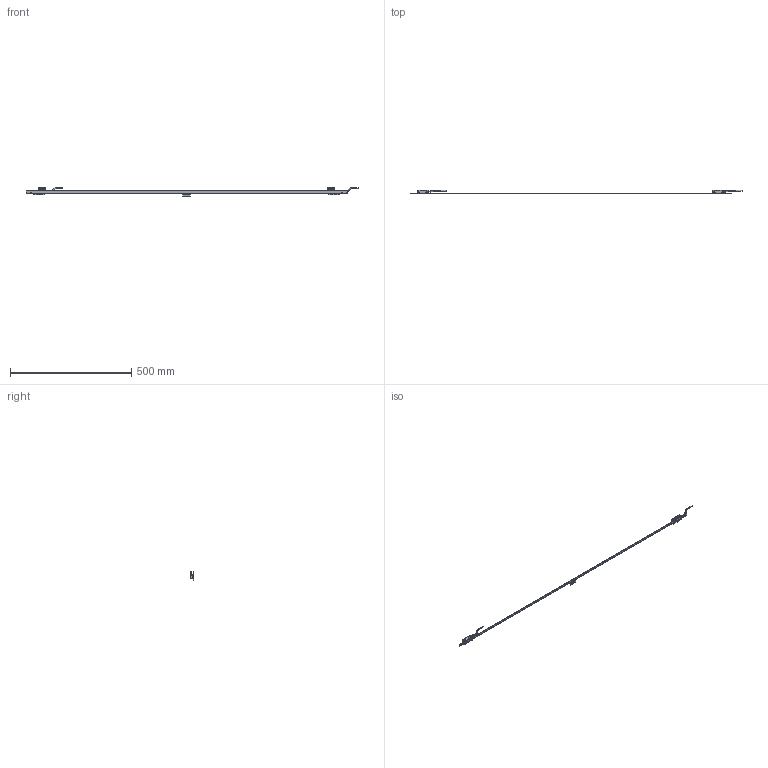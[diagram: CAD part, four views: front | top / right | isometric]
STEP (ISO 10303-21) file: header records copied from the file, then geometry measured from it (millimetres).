
FILE_DESCRIPTION(('Creo Elements/Direct Modeling STEP Export'),'2;1');
FILE_NAME('ITA-1220.stp','2025-01-22T11:41:46',(''),(''),'Creo Elements/Direct Modeling STEP processor for AP214 (Solid Model)','Creo Elements/Direct Modeling 20.4A 18-Oct-2021 (C) Parametric Technology GmbH','');
FILE_SCHEMA(('AUTOMOTIVE_DESIGN { 1 0 10303 214 1 1 1 1 }'));
Length unit declared in the file: millimetre
Products named in the file (9): END_TAPE_2; READING_HEAD_1; TAPE_1220; READING_HEAD_2; MAGNET_L1; MAGNET_L2; MAGNET_I0; END_TAPE_1; ITA_1220
Assembly tree (8 placements, depth 2):
  ITA_1220
    END_TAPE_1
    MAGNET_I0
    MAGNET_L2
    MAGNET_L1
    READING_HEAD_2
    TAPE_1220
    READING_HEAD_1
    END_TAPE_2
Bounding box: 1371.13 x 15.04 x 34.82 mm (x, y, z)
Volume: 31121.8 mm3; surface area: 40089.8 mm2
Topology: 8 solids, 8 shells, 1250 faces, 3413 edges, 2210 vertices
Faces by surface type: plane 908, cylinder 222, bspline 54, cone 32, torus 22, sphere 12
Entity records: 52347 total; most frequent: CARTESIAN_POINT 13619, ORIENTED_EDGE 6786, DIRECTION 5939, EDGE_CURVE 3393, VECTOR 2755, LINE 2755, VERTEX_POINT 2210, AXIS2_PLACEMENT_3D 1592
